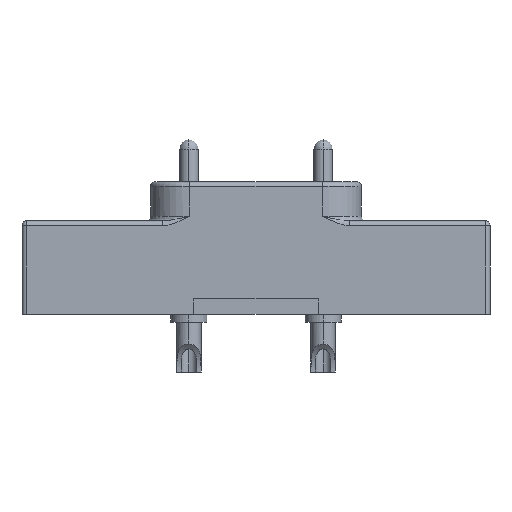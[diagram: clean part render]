
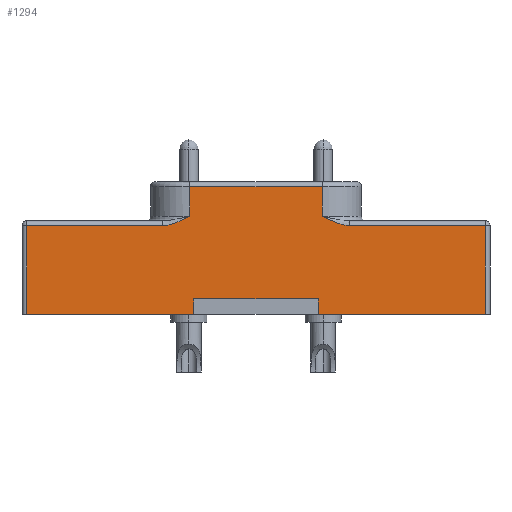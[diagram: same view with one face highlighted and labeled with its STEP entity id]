
A CAD part, front view. The second image highlights one B-rep face of the part: STEP entity #1294.
In plain terms, the highlighted planar face has unit normal (0, -1, 0).
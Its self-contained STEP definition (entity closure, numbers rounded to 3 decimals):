
#274=DIRECTION('',(1.,0.,0.));
#275=VECTOR('',#274,8.5);
#276=CARTESIAN_POINT('',(-4.25,-2.5,8.2));
#277=LINE('',#276,#275);
#278=DIRECTION('',(1.,0.,0.));
#279=VECTOR('',#278,8.);
#280=CARTESIAN_POINT('',(-4.,-2.5,1.));
#281=LINE('',#280,#279);
#282=DIRECTION('',(0.,0.,1.));
#283=VECTOR('',#282,1.);
#284=CARTESIAN_POINT('',(-4.,-2.5,0.));
#285=LINE('',#284,#283);
#286=DIRECTION('',(1.,0.,0.));
#287=VECTOR('',#286,10.7);
#288=CARTESIAN_POINT('',(-14.7,-2.5,0.));
#289=LINE('',#288,#287);
#290=DIRECTION('',(1.,0.,0.));
#291=VECTOR('',#290,10.7);
#292=CARTESIAN_POINT('',(4.,-2.5,0.));
#293=LINE('',#292,#291);
#298=DIRECTION('',(0.,0.,1.));
#299=VECTOR('',#298,1.);
#300=CARTESIAN_POINT('',(4.,-2.5,0.));
#301=LINE('',#300,#299);
#322=DIRECTION('',(0.,0.,1.));
#323=VECTOR('',#322,5.7);
#324=CARTESIAN_POINT('',(-14.7,-2.5,0.));
#325=LINE('',#324,#323);
#430=DIRECTION('',(0.,0.,-1.));
#431=VECTOR('',#430,5.7);
#432=CARTESIAN_POINT('',(14.7,-2.5,5.7));
#433=LINE('',#432,#431);
#492=DIRECTION('',(0.,0.,-1.));
#493=VECTOR('',#492,1.9);
#494=CARTESIAN_POINT('',(4.25,-2.5,8.2));
#495=LINE('',#494,#493);
#528=CARTESIAN_POINT('',(4.25,-2.5,6.3));
#529=CARTESIAN_POINT('',(4.361,-2.5,6.242));
#530=CARTESIAN_POINT('',(4.573,-2.5,6.131));
#531=CARTESIAN_POINT('',(4.865,-2.5,5.99));
#532=CARTESIAN_POINT('',(5.134,-2.5,5.877));
#533=CARTESIAN_POINT('',(5.38,-2.5,5.793));
#534=CARTESIAN_POINT('',(5.604,-2.5,5.737));
#535=CARTESIAN_POINT('',(5.806,-2.5,5.706));
#536=CARTESIAN_POINT('',(5.926,-2.5,5.7));
#537=CARTESIAN_POINT('',(5.982,-2.5,5.7));
#548=DIRECTION('',(1.,0.,0.));
#549=VECTOR('',#548,8.718);
#550=CARTESIAN_POINT('',(5.982,-2.5,5.7));
#551=LINE('',#550,#549);
#556=DIRECTION('',(0.,0.,1.));
#557=VECTOR('',#556,1.9);
#558=CARTESIAN_POINT('',(-4.25,-2.5,6.3));
#559=LINE('',#558,#557);
#591=CARTESIAN_POINT('',(-5.982,-2.5,5.7));
#592=CARTESIAN_POINT('',(-5.86,-2.5,5.701));
#593=CARTESIAN_POINT('',(-5.605,-2.5,5.728));
#594=CARTESIAN_POINT('',(-5.184,-2.5,5.851));
#595=CARTESIAN_POINT('',(-4.739,-2.5,6.047));
#596=CARTESIAN_POINT('',(-4.417,-2.5,6.209));
#597=CARTESIAN_POINT('',(-4.25,-2.5,6.3));
#608=DIRECTION('',(1.,0.,0.));
#609=VECTOR('',#608,8.718);
#610=CARTESIAN_POINT('',(-14.7,-2.5,5.7));
#611=LINE('',#610,#609);
#774=CARTESIAN_POINT('',(-14.7,-2.5,0.));
#776=VERTEX_POINT('',#774);
#804=CARTESIAN_POINT('',(14.7,-2.5,0.));
#805=VERTEX_POINT('',#804);
#806=CARTESIAN_POINT('',(4.,-2.5,0.));
#807=VERTEX_POINT('',#806);
#812=CARTESIAN_POINT('',(-4.,-2.5,0.));
#813=VERTEX_POINT('',#812);
#840=CARTESIAN_POINT('',(4.,-2.5,1.));
#841=VERTEX_POINT('',#840);
#842=CARTESIAN_POINT('',(14.7,-2.5,5.7));
#843=VERTEX_POINT('',#842);
#844=CARTESIAN_POINT('',(5.982,-2.5,5.7));
#845=VERTEX_POINT('',#844);
#846=VERTEX_POINT('',#528);
#847=CARTESIAN_POINT('',(4.25,-2.5,8.2));
#848=VERTEX_POINT('',#847);
#849=CARTESIAN_POINT('',(-4.25,-2.5,8.2));
#850=VERTEX_POINT('',#849);
#851=CARTESIAN_POINT('',(-4.25,-2.5,6.3));
#852=VERTEX_POINT('',#851);
#853=VERTEX_POINT('',#591);
#854=CARTESIAN_POINT('',(-14.7,-2.5,5.7));
#855=VERTEX_POINT('',#854);
#856=CARTESIAN_POINT('',(-4.,-2.5,1.));
#857=VERTEX_POINT('',#856);
#1262=CARTESIAN_POINT('',(-15.,-2.5,2.));
#1263=DIRECTION('',(0.,-1.,0.));
#1264=DIRECTION('',(-1.,0.,0.));
#1265=AXIS2_PLACEMENT_3D('',#1262,#1263,#1264);
#1266=PLANE('',#1265);
#1268=ORIENTED_EDGE('',*,*,#1267,.T.);
#1270=ORIENTED_EDGE('',*,*,#1269,.F.);
#1272=ORIENTED_EDGE('',*,*,#1271,.F.);
#1273=ORIENTED_EDGE('',*,*,#986,.F.);
#1275=ORIENTED_EDGE('',*,*,#1274,.T.);
#1277=ORIENTED_EDGE('',*,*,#1276,.T.);
#1279=ORIENTED_EDGE('',*,*,#1278,.T.);
#1281=ORIENTED_EDGE('',*,*,#1280,.T.);
#1282=ORIENTED_EDGE('',*,*,#1257,.T.);
#1284=ORIENTED_EDGE('',*,*,#1283,.T.);
#1286=ORIENTED_EDGE('',*,*,#1285,.T.);
#1288=ORIENTED_EDGE('',*,*,#1287,.T.);
#1290=ORIENTED_EDGE('',*,*,#1289,.T.);
#1291=ORIENTED_EDGE('',*,*,#994,.F.);
#1292=EDGE_LOOP('',(#1268,#1270,#1272,#1273,#1275,#1277,#1279,#1281,#1282,#1284,
#1286,#1288,#1290,#1291));
#1293=FACE_OUTER_BOUND('',#1292,.F.);
#1294=ADVANCED_FACE('',(#1293),#1266,.T.);
#538=B_SPLINE_CURVE_WITH_KNOTS('',3,(#528,#529,#530,#531,#532,#533,#534,#535,
#536,#537),.UNSPECIFIED.,.F.,.F.,(4,1,1,1,1,1,1,4),(0.,0.143,
0.286,0.429,0.571,0.714,
0.857,1.),.UNSPECIFIED.);
#598=B_SPLINE_CURVE_WITH_KNOTS('',3,(#591,#592,#593,#594,#595,#596,#597),
.UNSPECIFIED.,.F.,.F.,(4,1,1,1,4),(0.,0.25,0.5,0.75,1.),
.UNSPECIFIED.);
#986=EDGE_CURVE('',#776,#813,#289,.T.);
#994=EDGE_CURVE('',#807,#805,#293,.T.);
#1257=EDGE_CURVE('',#850,#848,#277,.T.);
#1267=EDGE_CURVE('',#807,#841,#301,.T.);
#1269=EDGE_CURVE('',#857,#841,#281,.T.);
#1271=EDGE_CURVE('',#813,#857,#285,.T.);
#1274=EDGE_CURVE('',#776,#855,#325,.T.);
#1276=EDGE_CURVE('',#855,#853,#611,.T.);
#1278=EDGE_CURVE('',#853,#852,#598,.T.);
#1280=EDGE_CURVE('',#852,#850,#559,.T.);
#1283=EDGE_CURVE('',#848,#846,#495,.T.);
#1285=EDGE_CURVE('',#846,#845,#538,.T.);
#1287=EDGE_CURVE('',#845,#843,#551,.T.);
#1289=EDGE_CURVE('',#843,#805,#433,.T.);
